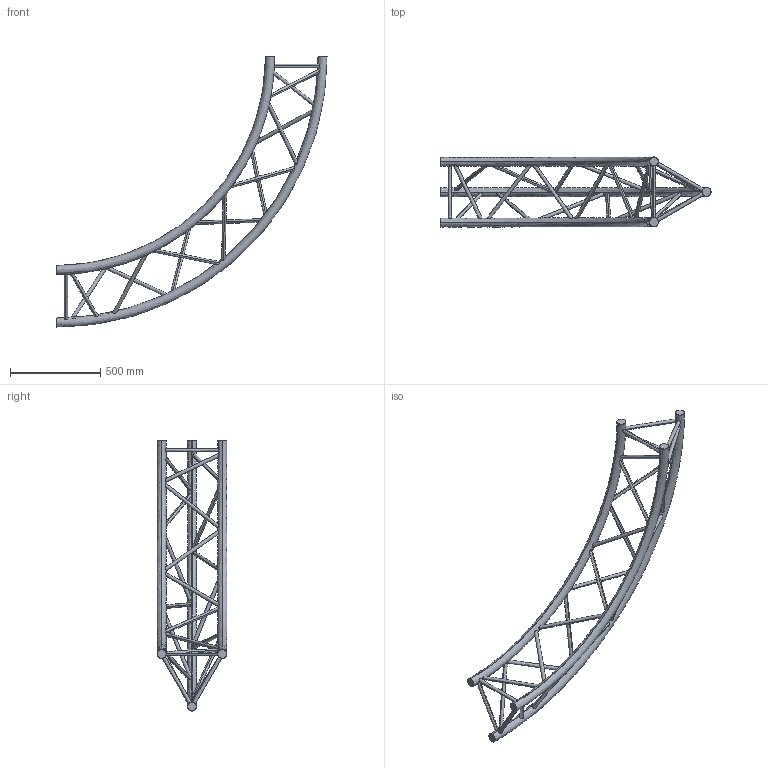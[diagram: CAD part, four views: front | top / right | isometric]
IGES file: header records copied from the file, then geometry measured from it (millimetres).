
Start section: SolidWorks IGES file using analytic representation for surfaces
Global section: file name: K:\BIBLIO\asd_biblio\SX390\Cercles\SXC39PE\SXC39300PE\SXC39300PE.IGS; native system: SolidWorks 2009; preprocessor: SolidWorks 2009; author: des3; date: 091021.135721; units: millimetre
Bounding box: 1500 x 387 x 1500 mm (x, y, z)
Surface area: 1534099.6 mm2 (no closed solid volume)
Topology: 0 solids, 0 shells, 66 faces, 4615 edges, 4615 vertices
Faces by surface type: revolution 54, bspline 12
